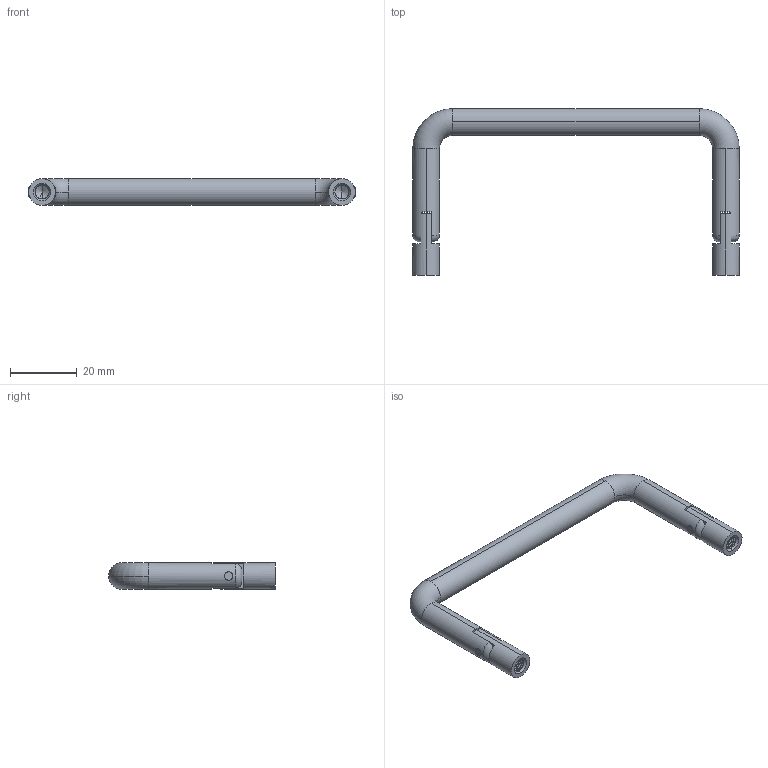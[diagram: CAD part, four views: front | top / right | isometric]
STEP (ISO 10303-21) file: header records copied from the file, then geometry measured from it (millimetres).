
FILE_DESCRIPTION (( 'STEP AP214' ), '1' );
FILE_NAME ('503-90.STEP', '2023-06-28T01:01:55', ( 'Windows 蚚誧' ), ( '' ), 'SwSTEP 2.0', 'SolidWorks 2019', '' );
FILE_SCHEMA (( 'AUTOMOTIVE_DESIGN' ));
Length unit declared in the file: millimetre
Products named in the file (1): 503-90
Bounding box: 98 x 50 x 8 mm (x, y, z)
Volume: 8452.7 mm3; surface area: 5745.6 mm2
Topology: 5 solids, 5 shells, 126 faces, 332 edges, 214 vertices
Faces by surface type: cylinder 68, plane 30, torus 12, cone 8, bspline 8
Entity records: 10152 total; most frequent: CARTESIAN_POINT 7193, ORIENTED_EDGE 656, DIRECTION 546, EDGE_CURVE 328, AXIS2_PLACEMENT_3D 219, VERTEX_POINT 214, EDGE_LOOP 140, ADVANCED_FACE 126
